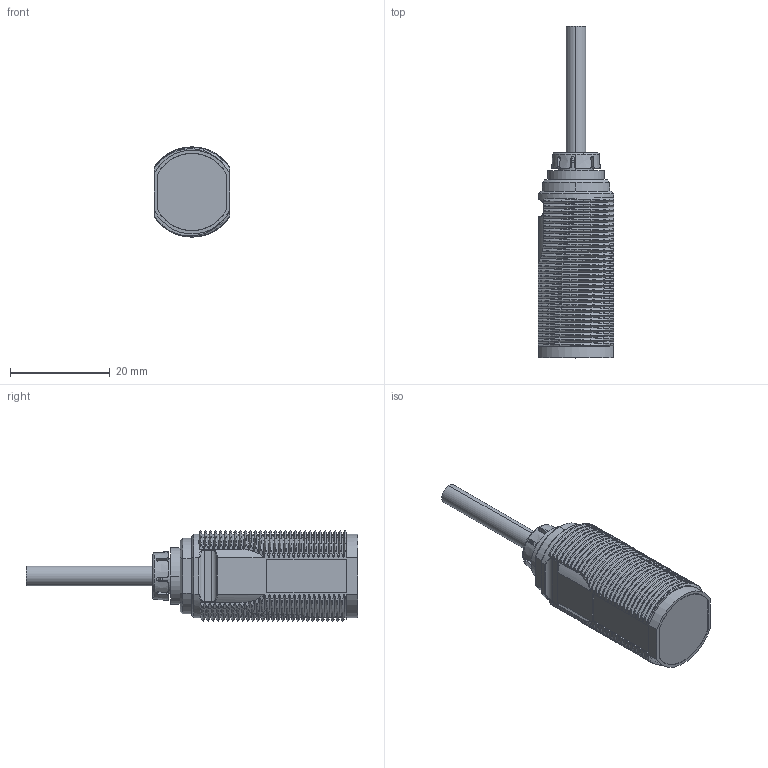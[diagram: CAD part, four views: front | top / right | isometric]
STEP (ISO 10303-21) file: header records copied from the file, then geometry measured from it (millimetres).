
FILE_DESCRIPTION (( 'STEP AP214' ), '1' );
FILE_NAME ('PM18.STEP', '2025-09-25T08:27:06', ( 'Windows User' ), ( 'P R C' ), 'SwSTEP 2.0', 'SolidWorks 2023', '' );
FILE_SCHEMA (( 'AUTOMOTIVE_DESIGN' ));
Products named in the file (1): PM18
Bounding box: 15.1 x 66.6 x 18.07 mm (x, y, z)
Volume: 8502.8 mm3; surface area: 3914.3 mm2
Topology: 1 solids, 5 shells, 473 faces, 1357 edges, 891 vertices
Faces by surface type: bspline 187, cylinder 151, plane 106, cone 29
Entity records: 61715 total; most frequent: CARTESIAN_POINT 51773, ORIENTED_EDGE 2714, EDGE_CURVE 1357, DIRECTION 1299, VERTEX_POINT 891, B_SPLINE_CURVE_WITH_KNOTS 498, EDGE_LOOP 486, ADVANCED_FACE 473
